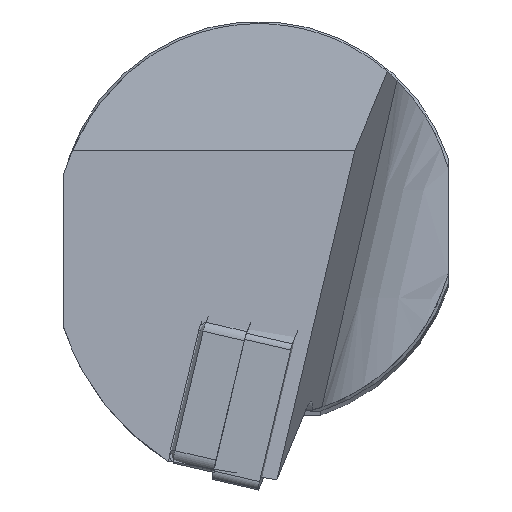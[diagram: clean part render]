
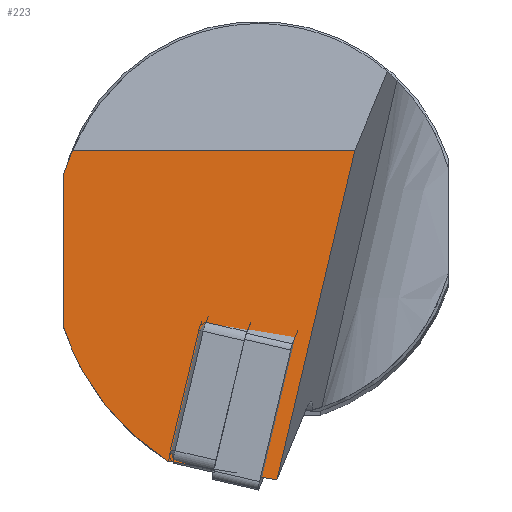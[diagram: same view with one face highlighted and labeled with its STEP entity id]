
A CAD part, top view. The second image highlights one B-rep face of the part: STEP entity #223.
In plain terms, the highlighted planar face has unit normal (0, 0.052, 0.999).
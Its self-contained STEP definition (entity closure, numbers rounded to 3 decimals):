
#223=ADVANCED_FACE('',(#316),#283,.F.);
#283=PLANE('',#1203);
#316=FACE_OUTER_BOUND('',#369,.T.);
#369=EDGE_LOOP('',(#643,#644,#645,#646,#647,#648));
#440=LINE('',#1631,#515);
#445=LINE('',#1679,#520);
#451=LINE('',#1755,#526);
#452=LINE('',#1759,#527);
#515=VECTOR('',#1307,1.);
#520=VECTOR('',#1328,1.);
#526=VECTOR('',#1356,1.);
#527=VECTOR('',#1359,1.);
#593=ELLIPSE('',#1201,24.897,24.864);
#594=ELLIPSE('',#1202,24.897,24.864);
#643=ORIENTED_EDGE('',*,*,#1009,.F.);
#644=ORIENTED_EDGE('',*,*,#1022,.F.);
#645=ORIENTED_EDGE('',*,*,#1044,.T.);
#646=ORIENTED_EDGE('',*,*,#1045,.F.);
#647=ORIENTED_EDGE('',*,*,#1046,.T.);
#648=ORIENTED_EDGE('',*,*,#1047,.F.);
#903=VERTEX_POINT('',#1623);
#907=VERTEX_POINT('',#1630);
#919=VERTEX_POINT('',#1680);
#936=VERTEX_POINT('',#1756);
#937=VERTEX_POINT('',#1758);
#938=VERTEX_POINT('',#1760);
#1009=EDGE_CURVE('',#907,#903,#440,.T.);
#1022=EDGE_CURVE('',#919,#907,#445,.T.);
#1044=EDGE_CURVE('',#919,#936,#451,.T.);
#1045=EDGE_CURVE('',#937,#936,#593,.T.);
#1046=EDGE_CURVE('',#937,#938,#452,.T.);
#1047=EDGE_CURVE('',#903,#938,#594,.T.);
#1201=AXIS2_PLACEMENT_3D('',#1757,#1357,#1358);
#1202=AXIS2_PLACEMENT_3D('',#1761,#1360,#1361);
#1203=AXIS2_PLACEMENT_3D('',#1762,#1362,#1363);
#1307=DIRECTION('',(-0.986,0.169,-0.009));
#1328=DIRECTION('',(-0.23,-0.972,0.05));
#1356=DIRECTION('',(-1.,0.,0.));
#1357=DIRECTION('',(0.,-0.052,-0.999));
#1358=DIRECTION('',(0.,-0.999,0.052));
#1359=DIRECTION('',(0.,-0.999,0.052));
#1360=DIRECTION('',(0.,-0.052,-0.999));
#1361=DIRECTION('',(0.,-0.999,0.052));
#1362=DIRECTION('',(0.,-0.052,-0.999));
#1363=DIRECTION('',(0.,0.999,-0.052));
#1623=CARTESIAN_POINT('',(-9.079,-24.104,-0.228));
#1630=CARTESIAN_POINT('',(1.847,-25.977,-0.131));
#1631=CARTESIAN_POINT('',(-24.682,-21.429,-0.367));
#1679=CARTESIAN_POINT('',(13.69,24.139,-2.725));
#1680=CARTESIAN_POINT('',(9.64,7.,-1.838));
#1755=CARTESIAN_POINT('',(-25.9,7.,-1.838));
#1756=CARTESIAN_POINT('',(-18.578,7.,-1.838));
#1757=CARTESIAN_POINT('',(4.161,-3.058,-1.317));
#1758=CARTESIAN_POINT('',(-19.5,4.582,-1.713));
#1759=CARTESIAN_POINT('',(-19.5,-28.517,0.));
#1760=CARTESIAN_POINT('',(-19.5,-10.699,-0.922));
#1761=CARTESIAN_POINT('',(4.161,-3.058,-1.317));
#1762=CARTESIAN_POINT('',(-25.9,-28.517,0.));
